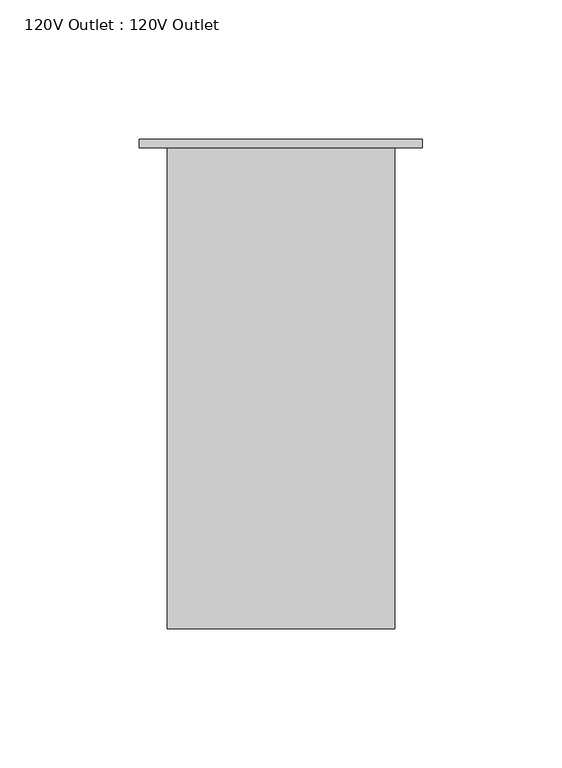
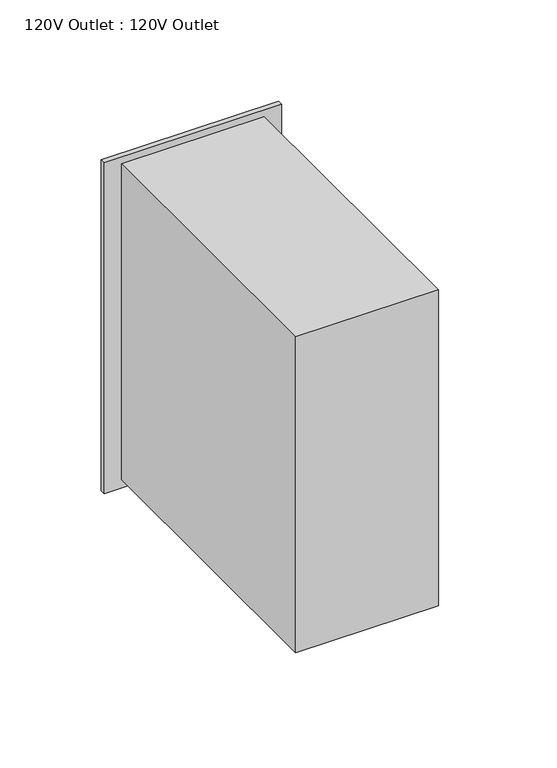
"""IFC4 building model written with IfcOpenShell, lengths in millimetres: proxy geometry, 120V Outlet : 120V Outlet."""

from ifc_helpers import new_model, si_unit, point, frame, frame_2d, origin, place, context, project, spatial, polyline, circle_curve, trimmed, segment, composite_curve, outline, extrude, source, transform, mapped, element, save


def proxy_120v_outlet_120v_outlet_43f5f55e(model_context):
    return source(origin(), model_context, "Body", "SweptSolid", [
        extrude(outline(polyline([(40.8, 1.0), (-40.8, 1.0), (-40.8, 173.6), (40.8, 173.6), (40.8, 1.0)])), frame((0.0, 0.0, 1887.0755609), z_axis=(0.0, 0.0, 1.0), x_axis=(1.0, 0.0, 0.0)), (0.0, 0.0, 1.0), 190.9390479),
        extrude(outline(polyline([(2082.0755609, -50.8), (1882.0755609, -50.8), (1882.0755609, 50.8), (2082.0755609, 50.8), (2082.0755609, -50.8)]), holes=[polyline([(2036.2177863, 19.9845665), (2036.2177863, 24.9845665), (2016.2177863, 24.9845665), (2016.2177863, 19.9845665), (2036.2177863, 19.9845665)]), polyline([(2036.2177863, -22.7879151), (2036.2177863, -17.6387853), (2016.2177863, -17.6387853), (2016.2177863, -22.7879151), (2036.2177863, -22.7879151)]), composite_curve([segment(trimmed(circle_curve(frame_2d((2059.9609957, 0.0)), 6.8655063), [point((2059.9609957, 6.8655063))], [point((2059.9609957, -6.8655063))], True, "CARTESIAN"), True, "CONTINUOUS"), segment(trimmed(circle_curve(frame_2d((2059.9609957, 0.0)), 6.8655063), [point((2059.9609957, -6.8655063))], [point((2059.9609957, 6.8655063))], True, "CARTESIAN"), True, "CONTINUOUS")], self_intersect=False), polyline([(1936.2177863, 19.9845665), (1936.2177863, 24.9845665), (1916.2177863, 24.9845665), (1916.2177863, 19.9845665), (1936.2177863, 19.9845665)]), polyline([(1936.2177863, -22.7879151), (1936.2177863, -17.6387853), (1916.2177863, -17.6387853), (1916.2177863, -22.7879151), (1936.2177863, -22.7879151)]), composite_curve([segment(trimmed(circle_curve(frame_2d((1959.9609957, 0.0)), 6.8655063), [point((1959.9609957, 6.8655063))], [point((1959.9609957, -6.8655063))], True, "CARTESIAN"), True, "CONTINUOUS"), segment(trimmed(circle_curve(frame_2d((1959.9609957, 0.0)), 6.8655063), [point((1959.9609957, -6.8655063))], [point((1959.9609957, 6.8655063))], True, "CARTESIAN"), True, "CONTINUOUS")], self_intersect=False)]), frame((0.0, 173.6, 0.0), z_axis=(0.0, 1.0, 0.0), x_axis=(0.0, 0.0, 1.0)), (0.0, 0.0, 1.0), 3.0),
    ])


if __name__ == "__main__":
    model = new_model("IFC4")
    model_context = context("Model", 3, world=origin())
    ifc_project = project(units=[si_unit("LENGTHUNIT", "METRE", prefix="MILLI")], contexts=[model_context])
    site = spatial("IfcSite", under=ifc_project)
    building = spatial("IfcBuilding", under=site)
    placement = place(None, origin())
    proxy_120v_outlet_120v_outlet_shape = proxy_120v_outlet_120v_outlet_43f5f55e(model_context)
    element("IfcBuildingElementProxy", 1, Name="120V Outlet : 120V Outlet", ObjectType="120V Outlet : 120V Outlet", at=placement, inside=building, context=model_context, shape_type="MappedRepresentation", body=[
        mapped(proxy_120v_outlet_120v_outlet_shape, transform((0.0, 0.0, 0.0), x_axis=(1.0, 0.0, 0.0), y_axis=(0.0, 1.0, 0.0), z_axis=(0.0, 0.0, 1.0))),
    ])
    save(model, "model.ifc")
